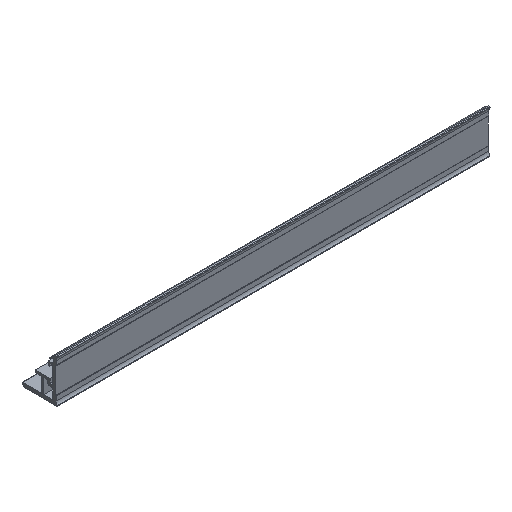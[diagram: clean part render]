
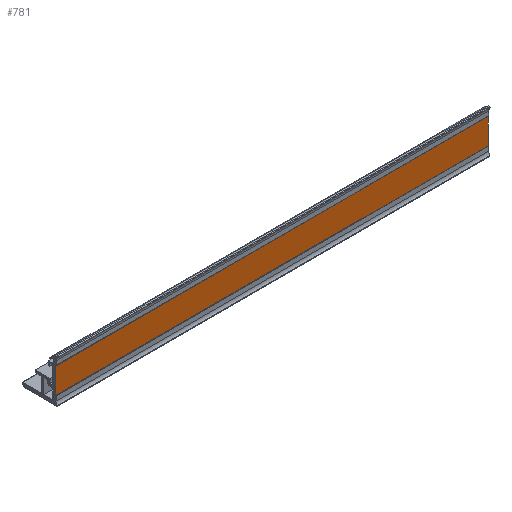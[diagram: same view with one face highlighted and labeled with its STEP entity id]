
A CAD part, isometric view. The second image highlights one B-rep face of the part: STEP entity #781.
In plain terms, the highlighted planar face has unit normal (0, -1, 0).
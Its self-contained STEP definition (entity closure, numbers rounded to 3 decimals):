
#68 = CARTESIAN_POINT ( 'NONE',  ( 0., 0., 7.5 ) ) ;
#75 = DIRECTION ( 'NONE',  ( 1., 0., 0. ) ) ;
#92 = CARTESIAN_POINT ( 'NONE',  ( 0., 0., 7.5 ) ) ;
#100 = VERTEX_POINT ( 'NONE', #432 ) ;
#112 = VECTOR ( 'NONE', #1239, 1000. ) ;
#244 = CARTESIAN_POINT ( 'NONE',  ( -250., 0., 7.5 ) ) ;
#288 = EDGE_CURVE ( 'NONE', #317, #1110, #295, .T. ) ;
#295 = LINE ( 'NONE', #613, #732 ) ;
#317 = VERTEX_POINT ( 'NONE', #729 ) ;
#360 = EDGE_CURVE ( 'NONE', #100, #962, #403, .T. ) ;
#368 = EDGE_LOOP ( 'NONE', ( #749, #579, #1215, #1088 ) ) ;
#403 = LINE ( 'NONE', #827, #112 ) ;
#413 = FACE_OUTER_BOUND ( 'NONE', #368, .T. ) ;
#432 = CARTESIAN_POINT ( 'NONE',  ( -250., 0., -7.5 ) ) ;
#538 = LINE ( 'NONE', #244, #711 ) ;
#579 = ORIENTED_EDGE ( 'NONE', *, *, #288, .F. ) ;
#598 = EDGE_CURVE ( 'NONE', #1110, #962, #1011, .T. ) ;
#613 = CARTESIAN_POINT ( 'NONE',  ( -250., 0., 7.5 ) ) ;
#618 = DIRECTION ( 'NONE',  ( 0., -1., 0. ) ) ;
#711 = VECTOR ( 'NONE', #1285, 1000. ) ;
#729 = CARTESIAN_POINT ( 'NONE',  ( -250., 0., 7.5 ) ) ;
#732 = VECTOR ( 'NONE', #75, 1000. ) ;
#749 = ORIENTED_EDGE ( 'NONE', *, *, #598, .F. ) ;
#781 = ADVANCED_FACE ( 'NONE', ( #413 ), #919, .T. ) ;
#804 = DIRECTION ( 'NONE',  ( 0., 0., -1. ) ) ;
#827 = CARTESIAN_POINT ( 'NONE',  ( -250., 0., -7.5 ) ) ;
#901 = EDGE_CURVE ( 'NONE', #317, #100, #538, .T. ) ;
#919 = PLANE ( 'NONE',  #1119 ) ;
#962 = VERTEX_POINT ( 'NONE', #1085 ) ;
#1011 = LINE ( 'NONE', #68, #1273 ) ;
#1085 = CARTESIAN_POINT ( 'NONE',  ( 0., 0., -7.5 ) ) ;
#1088 = ORIENTED_EDGE ( 'NONE', *, *, #360, .T. ) ;
#1110 = VERTEX_POINT ( 'NONE', #92 ) ;
#1119 = AXIS2_PLACEMENT_3D ( 'NONE', #1135, #618, #1224 ) ;
#1135 = CARTESIAN_POINT ( 'NONE',  ( -250., 0., 7.5 ) ) ;
#1215 = ORIENTED_EDGE ( 'NONE', *, *, #901, .T. ) ;
#1224 = DIRECTION ( 'NONE',  ( 0., 0., -1. ) ) ;
#1239 = DIRECTION ( 'NONE',  ( 1., 0., 0. ) ) ;
#1273 = VECTOR ( 'NONE', #804, 1000. ) ;
#1285 = DIRECTION ( 'NONE',  ( 0., 0., -1. ) ) ;
